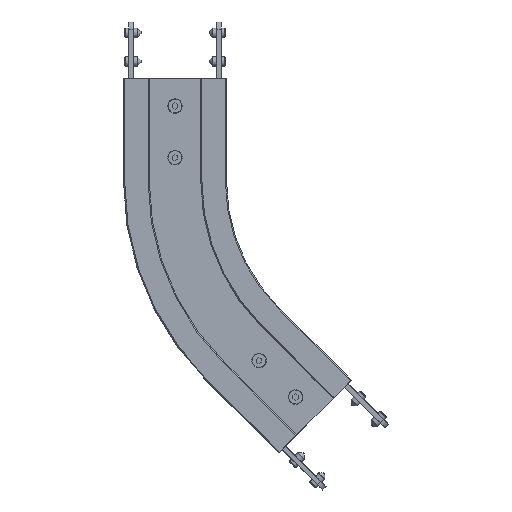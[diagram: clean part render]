
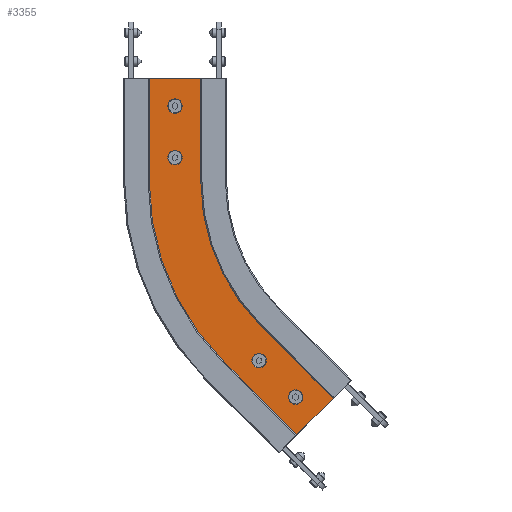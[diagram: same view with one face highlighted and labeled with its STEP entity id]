
A CAD part, front view. The second image highlights one B-rep face of the part: STEP entity #3355.
In plain terms, the highlighted planar face has unit normal (0, -1, 0) as drawn and (0, 1, 0) by its records, which use the part's own axes.
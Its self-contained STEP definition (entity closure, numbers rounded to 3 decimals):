
#4 = FACE_BOUND ( 'NONE', #12431, .T. ) ;
#6 = EDGE_CURVE ( 'NONE', #1951, #1156, #3746, .T. ) ;
#39 = DIRECTION ( 'NONE',  ( 0., 0., -1. ) ) ;
#100 = DIRECTION ( 'NONE',  ( -0.707, 0., -0.707 ) ) ;
#204 = CARTESIAN_POINT ( 'NONE',  ( 35., 10.5, -90. ) ) ;
#206 = EDGE_CURVE ( 'NONE', #6676, #8254, #11163, .T. ) ;
#276 = ORIENTED_EDGE ( 'NONE', *, *, #12566, .T. ) ;
#608 = CARTESIAN_POINT ( 'NONE',  ( 35., 10.5, 0. ) ) ;
#742 = VECTOR ( 'NONE', #5055, 1000. ) ;
#834 = VERTEX_POINT ( 'NONE', #3957 ) ;
#1019 = VECTOR ( 'NONE', #13234, 1000. ) ;
#1156 = VERTEX_POINT ( 'NONE', #5705 ) ;
#1213 = CARTESIAN_POINT ( 'NONE',  ( 0., 10.5, -30.3 ) ) ;
#1229 = CARTESIAN_POINT ( 'NONE',  ( -35., 10.5, -90. ) ) ;
#1244 = AXIS2_PLACEMENT_3D ( 'NONE', #10386, #8079, #12459 ) ;
#1376 = ORIENTED_EDGE ( 'NONE', *, *, #5056, .F. ) ;
#1407 = ORIENTED_EDGE ( 'NONE', *, *, #13705, .F. ) ;
#1532 = AXIS2_PLACEMENT_3D ( 'NONE', #8461, #2956, #11877 ) ;
#1802 = VERTEX_POINT ( 'NONE', #13603 ) ;
#1815 = LINE ( 'NONE', #12388, #9110 ) ;
#1951 = VERTEX_POINT ( 'NONE', #8105 ) ;
#2001 = EDGE_LOOP ( 'NONE', ( #2656, #1407, #4817, #6742, #276, #4806, #7712, #9579 ) ) ;
#2031 = EDGE_CURVE ( 'NONE', #12646, #8387, #13725, .T. ) ;
#2089 = FACE_BOUND ( 'NONE', #5276, .T. ) ;
#2158 = DIRECTION ( 'NONE',  ( 0., 0., 1. ) ) ;
#2258 = CARTESIAN_POINT ( 'NONE',  ( -35., 10.5, 0. ) ) ;
#2312 = EDGE_CURVE ( 'NONE', #3871, #12674, #4193, .T. ) ;
#2383 = DIRECTION ( 'NONE',  ( 0., 1., 0. ) ) ;
#2505 = DIRECTION ( 'NONE',  ( 0., 0., 1. ) ) ;
#2656 = ORIENTED_EDGE ( 'NONE', *, *, #2312, .F. ) ;
#2956 = DIRECTION ( 'NONE',  ( 0., 1., 0. ) ) ;
#2979 = EDGE_CURVE ( 'NONE', #1802, #12860, #9059, .T. ) ;
#3007 = CIRCLE ( 'NONE', #8344, 235. ) ;
#3323 = VECTOR ( 'NONE', #10451, 1000. ) ;
#3355 = ADVANCED_FACE ( 'NONE', ( #9726, #2089, #12173, #4, #5077 ), #8859, .T. ) ;
#3361 = DIRECTION ( 'NONE',  ( 0., 0., 1. ) ) ;
#3539 = ORIENTED_EDGE ( 'NONE', *, *, #9396, .F. ) ;
#3675 = ORIENTED_EDGE ( 'NONE', *, *, #2979, .F. ) ;
#3729 = CARTESIAN_POINT ( 'NONE',  ( 0., 10.5, -69. ) ) ;
#3746 = LINE ( 'NONE', #8510, #742 ) ;
#3775 = CIRCLE ( 'NONE', #4257, 6.3 ) ;
#3856 = EDGE_LOOP ( 'NONE', ( #8566, #4827 ) ) ;
#3871 = VERTEX_POINT ( 'NONE', #608 ) ;
#3957 = CARTESIAN_POINT ( 'NONE',  ( 0., 10.5, -17.7 ) ) ;
#4193 = LINE ( 'NONE', #2258, #1019 ) ;
#4230 = CARTESIAN_POINT ( 'NONE',  ( 105.248, 10.5, -284.39 ) ) ;
#4257 = AXIS2_PLACEMENT_3D ( 'NONE', #3729, #9134, #2505 ) ;
#4747 = CARTESIAN_POINT ( 'NONE',  ( 105.248, 10.5, -278.09 ) ) ;
#4806 = ORIENTED_EDGE ( 'NONE', *, *, #206, .F. ) ;
#4817 = ORIENTED_EDGE ( 'NONE', *, *, #14266, .T. ) ;
#4827 = ORIENTED_EDGE ( 'NONE', *, *, #8924, .F. ) ;
#4918 = CARTESIAN_POINT ( 'NONE',  ( -35., 10.5, 0. ) ) ;
#5055 = DIRECTION ( 'NONE',  ( 0.707, 0., -0.707 ) ) ;
#5056 = EDGE_CURVE ( 'NONE', #12001, #8397, #9162, .T. ) ;
#5077 = FACE_OUTER_BOUND ( 'NONE', #2001, .T. ) ;
#5273 = DIRECTION ( 'NONE',  ( 0., 0., 1. ) ) ;
#5276 = EDGE_LOOP ( 'NONE', ( #3539, #1376 ) ) ;
#5461 = DIRECTION ( 'NONE',  ( 0., 1., 0. ) ) ;
#5658 = CARTESIAN_POINT ( 'NONE',  ( 0., 10.5, -69. ) ) ;
#5705 = CARTESIAN_POINT ( 'NONE',  ( 146.967, 10.5, -270.312 ) ) ;
#5849 = DIRECTION ( 'NONE',  ( 0., 0., 1. ) ) ;
#6132 = LINE ( 'NONE', #204, #13053 ) ;
#6267 = AXIS2_PLACEMENT_3D ( 'NONE', #7378, #8292, #8383 ) ;
#6356 = CARTESIAN_POINT ( 'NONE',  ( 73.428, 10.5, -246.271 ) ) ;
#6497 = CARTESIAN_POINT ( 'NONE',  ( 35., 10.5, -90. ) ) ;
#6676 = VERTEX_POINT ( 'NONE', #7760 ) ;
#6742 = ORIENTED_EDGE ( 'NONE', *, *, #6, .T. ) ;
#6877 = AXIS2_PLACEMENT_3D ( 'NONE', #8843, #14352, #12215 ) ;
#6878 = CIRCLE ( 'NONE', #1244, 6.3 ) ;
#6892 = CIRCLE ( 'NONE', #1532, 6.3 ) ;
#7187 = ORIENTED_EDGE ( 'NONE', *, *, #11227, .F. ) ;
#7329 = CIRCLE ( 'NONE', #8156, 6.3 ) ;
#7378 = CARTESIAN_POINT ( 'NONE',  ( 73.428, 10.5, -246.271 ) ) ;
#7475 = LINE ( 'NONE', #9339, #3323 ) ;
#7712 = ORIENTED_EDGE ( 'NONE', *, *, #11058, .F. ) ;
#7753 = EDGE_LOOP ( 'NONE', ( #7187, #10738 ) ) ;
#7760 = CARTESIAN_POINT ( 'NONE',  ( 33.83, 10.5, -256.17 ) ) ;
#8079 = DIRECTION ( 'NONE',  ( 0., 1., 0. ) ) ;
#8105 = CARTESIAN_POINT ( 'NONE',  ( 83.327, 10.5, -206.673 ) ) ;
#8156 = AXIS2_PLACEMENT_3D ( 'NONE', #6356, #14112, #5273 ) ;
#8254 = VERTEX_POINT ( 'NONE', #11469 ) ;
#8292 = DIRECTION ( 'NONE',  ( 0., 1., 0. ) ) ;
#8344 = AXIS2_PLACEMENT_3D ( 'NONE', #9577, #11794, #9627 ) ;
#8383 = DIRECTION ( 'NONE',  ( 0., 0., 1. ) ) ;
#8387 = VERTEX_POINT ( 'NONE', #10611 ) ;
#8397 = VERTEX_POINT ( 'NONE', #13984 ) ;
#8444 = DIRECTION ( 'NONE',  ( 0.707, 0., -0.707 ) ) ;
#8461 = CARTESIAN_POINT ( 'NONE',  ( 0., 10.5, -24. ) ) ;
#8510 = CARTESIAN_POINT ( 'NONE',  ( 83.327, 10.5, -206.673 ) ) ;
#8566 = ORIENTED_EDGE ( 'NONE', *, *, #11249, .F. ) ;
#8684 = CIRCLE ( 'NONE', #12866, 165. ) ;
#8698 = CIRCLE ( 'NONE', #6877, 6.3 ) ;
#8843 = CARTESIAN_POINT ( 'NONE',  ( 0., 10.5, -24. ) ) ;
#8859 = PLANE ( 'NONE',  #9662 ) ;
#8924 = EDGE_CURVE ( 'NONE', #9226, #834, #6892, .T. ) ;
#9059 = CIRCLE ( 'NONE', #12493, 6.3 ) ;
#9110 = VECTOR ( 'NONE', #100, 1000. ) ;
#9134 = DIRECTION ( 'NONE',  ( 0., 1., 0. ) ) ;
#9162 = CIRCLE ( 'NONE', #13196, 6.3 ) ;
#9226 = VERTEX_POINT ( 'NONE', #1213 ) ;
#9323 = CARTESIAN_POINT ( 'NONE',  ( 33.83, 10.5, -256.17 ) ) ;
#9335 = EDGE_CURVE ( 'NONE', #12860, #1802, #6878, .T. ) ;
#9339 = CARTESIAN_POINT ( 'NONE',  ( -35., 10.5, -90. ) ) ;
#9396 = EDGE_CURVE ( 'NONE', #8397, #12001, #3775, .T. ) ;
#9577 = CARTESIAN_POINT ( 'NONE',  ( 200., 10.5, -90. ) ) ;
#9579 = ORIENTED_EDGE ( 'NONE', *, *, #11623, .T. ) ;
#9627 = DIRECTION ( 'NONE',  ( 0., 0., -1. ) ) ;
#9662 = AXIS2_PLACEMENT_3D ( 'NONE', #13296, #2383, #3361 ) ;
#9726 = FACE_BOUND ( 'NONE', #3856, .T. ) ;
#9940 = VECTOR ( 'NONE', #8444, 1000. ) ;
#10386 = CARTESIAN_POINT ( 'NONE',  ( 105.248, 10.5, -278.09 ) ) ;
#10451 = DIRECTION ( 'NONE',  ( 0., 0., 1. ) ) ;
#10611 = CARTESIAN_POINT ( 'NONE',  ( 73.428, 10.5, -239.971 ) ) ;
#10738 = ORIENTED_EDGE ( 'NONE', *, *, #2031, .F. ) ;
#11058 = EDGE_CURVE ( 'NONE', #11343, #6676, #3007, .T. ) ;
#11163 = LINE ( 'NONE', #9323, #9940 ) ;
#11227 = EDGE_CURVE ( 'NONE', #8387, #12646, #7329, .T. ) ;
#11249 = EDGE_CURVE ( 'NONE', #834, #9226, #8698, .T. ) ;
#11343 = VERTEX_POINT ( 'NONE', #1229 ) ;
#11420 = CARTESIAN_POINT ( 'NONE',  ( 73.428, 10.5, -252.571 ) ) ;
#11435 = DIRECTION ( 'NONE',  ( 0., 1., 0. ) ) ;
#11469 = CARTESIAN_POINT ( 'NONE',  ( 97.47, 10.5, -319.81 ) ) ;
#11623 = EDGE_CURVE ( 'NONE', #11343, #12674, #7475, .T. ) ;
#11794 = DIRECTION ( 'NONE',  ( 0., -1., 0. ) ) ;
#11877 = DIRECTION ( 'NONE',  ( 0., 0., 1. ) ) ;
#12001 = VERTEX_POINT ( 'NONE', #12510 ) ;
#12173 = FACE_BOUND ( 'NONE', #7753, .T. ) ;
#12215 = DIRECTION ( 'NONE',  ( 0., 0., 1. ) ) ;
#12340 = DIRECTION ( 'NONE',  ( 0., 0., 1. ) ) ;
#12388 = CARTESIAN_POINT ( 'NONE',  ( 97.47, 10.5, -319.81 ) ) ;
#12431 = EDGE_LOOP ( 'NONE', ( #3675, #14259 ) ) ;
#12459 = DIRECTION ( 'NONE',  ( 0., 0., 1. ) ) ;
#12493 = AXIS2_PLACEMENT_3D ( 'NONE', #4747, #11435, #5849 ) ;
#12510 = CARTESIAN_POINT ( 'NONE',  ( 0., 10.5, -75.3 ) ) ;
#12566 = EDGE_CURVE ( 'NONE', #1156, #8254, #1815, .T. ) ;
#12646 = VERTEX_POINT ( 'NONE', #11420 ) ;
#12674 = VERTEX_POINT ( 'NONE', #4918 ) ;
#12860 = VERTEX_POINT ( 'NONE', #4230 ) ;
#12866 = AXIS2_PLACEMENT_3D ( 'NONE', #13240, #13335, #39 ) ;
#13053 = VECTOR ( 'NONE', #12340, 1000. ) ;
#13196 = AXIS2_PLACEMENT_3D ( 'NONE', #5658, #5461, #2158 ) ;
#13234 = DIRECTION ( 'NONE',  ( -1., 0., 0. ) ) ;
#13240 = CARTESIAN_POINT ( 'NONE',  ( 200., 10.5, -90. ) ) ;
#13296 = CARTESIAN_POINT ( 'NONE',  ( -35., 10.5, -90. ) ) ;
#13335 = DIRECTION ( 'NONE',  ( 0., -1., 0. ) ) ;
#13603 = CARTESIAN_POINT ( 'NONE',  ( 105.248, 10.5, -271.79 ) ) ;
#13705 = EDGE_CURVE ( 'NONE', #14152, #3871, #6132, .T. ) ;
#13725 = CIRCLE ( 'NONE', #6267, 6.3 ) ;
#13984 = CARTESIAN_POINT ( 'NONE',  ( 0., 10.5, -62.7 ) ) ;
#14112 = DIRECTION ( 'NONE',  ( 0., 1., 0. ) ) ;
#14152 = VERTEX_POINT ( 'NONE', #6497 ) ;
#14259 = ORIENTED_EDGE ( 'NONE', *, *, #9335, .F. ) ;
#14266 = EDGE_CURVE ( 'NONE', #14152, #1951, #8684, .T. ) ;
#14352 = DIRECTION ( 'NONE',  ( 0., 1., 0. ) ) ;
